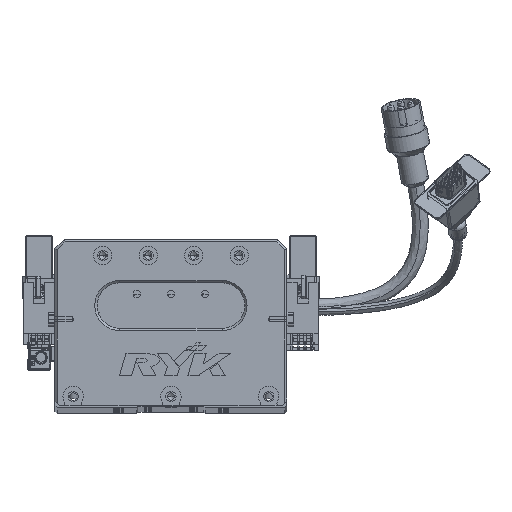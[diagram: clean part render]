
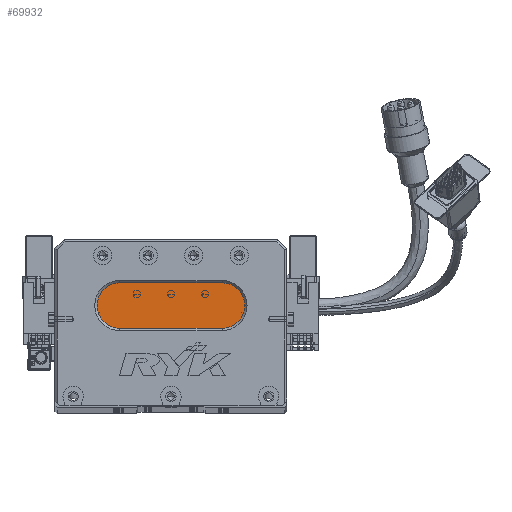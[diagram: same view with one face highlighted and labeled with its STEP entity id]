
A CAD part, top view. The second image highlights one B-rep face of the part: STEP entity #69932.
In plain terms, the highlighted planar face has unit normal (0, 0, 1) as drawn and (0, 0, -1) by its records, which use the part's own axes.
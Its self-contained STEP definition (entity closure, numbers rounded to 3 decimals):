
#578 = VERTEX_POINT ( 'NONE', #909 ) ;
#909 = CARTESIAN_POINT ( 'NONE',  ( 28.5, 34., 13. ) ) ;
#1079 = CARTESIAN_POINT ( 'NONE',  ( 73.5, 54., 13. ) ) ;
#2550 = CIRCLE ( 'NONE', #65494, 10. ) ;
#4486 = CARTESIAN_POINT ( 'NONE',  ( 73.5, 54., 13. ) ) ;
#7367 = CARTESIAN_POINT ( 'NONE',  ( 28.5, 54., 13. ) ) ;
#10949 = CARTESIAN_POINT ( 'NONE',  ( 73.5, 44., 13. ) ) ;
#13736 = EDGE_CURVE ( 'NONE', #48688, #40204, #22959, .T. ) ;
#16192 = VERTEX_POINT ( 'NONE', #66918 ) ;
#17509 = CARTESIAN_POINT ( 'NONE',  ( 28.5, 44., 13. ) ) ;
#17706 = DIRECTION ( 'NONE',  ( 0., 0., -1. ) ) ;
#22327 = DIRECTION ( 'NONE',  ( 0., 0., -1. ) ) ;
#22959 = LINE ( 'NONE', #1079, #73564 ) ;
#23546 = CARTESIAN_POINT ( 'NONE',  ( 73.5, 44., 13. ) ) ;
#33499 = AXIS2_PLACEMENT_3D ( 'NONE', #23546, #17706, #70014 ) ;
#34763 = FACE_OUTER_BOUND ( 'NONE', #42475, .T. ) ;
#34994 = DIRECTION ( 'NONE',  ( 0., 0., -1. ) ) ;
#35697 = PLANE ( 'NONE',  #33499 ) ;
#38817 = AXIS2_PLACEMENT_3D ( 'NONE', #53848, #70509, #54094 ) ;
#40204 = VERTEX_POINT ( 'NONE', #4486 ) ;
#41205 = DIRECTION ( 'NONE',  ( -1., 0., 0. ) ) ;
#42475 = EDGE_LOOP ( 'NONE', ( #67655, #66916, #44395, #64276, #74736 ) ) ;
#42479 = CIRCLE ( 'NONE', #63262, 10. ) ;
#44395 = ORIENTED_EDGE ( 'NONE', *, *, #65002, .T. ) ;
#46241 = LINE ( 'NONE', #47283, #64364 ) ;
#46629 = DIRECTION ( 'NONE',  ( -1., 0., 0. ) ) ;
#46640 = VERTEX_POINT ( 'NONE', #54731 ) ;
#47283 = CARTESIAN_POINT ( 'NONE',  ( 73.5, 34., 13. ) ) ;
#48688 = VERTEX_POINT ( 'NONE', #7367 ) ;
#52530 = EDGE_CURVE ( 'NONE', #40204, #16192, #2550, .T. ) ;
#53848 = CARTESIAN_POINT ( 'NONE',  ( 28.5, 44., 13. ) ) ;
#54094 = DIRECTION ( 'NONE',  ( -1., 0., 0. ) ) ;
#54731 = CARTESIAN_POINT ( 'NONE',  ( 18.5, 44., 13. ) ) ;
#63262 = AXIS2_PLACEMENT_3D ( 'NONE', #17509, #34994, #46629 ) ;
#63867 = EDGE_CURVE ( 'NONE', #16192, #578, #46241, .T. ) ;
#64276 = ORIENTED_EDGE ( 'NONE', *, *, #70021, .T. ) ;
#64364 = VECTOR ( 'NONE', #41205, 1000. ) ;
#65002 = EDGE_CURVE ( 'NONE', #578, #46640, #42479, .T. ) ;
#65494 = AXIS2_PLACEMENT_3D ( 'NONE', #10949, #22327, #74863 ) ;
#66916 = ORIENTED_EDGE ( 'NONE', *, *, #63867, .T. ) ;
#66918 = CARTESIAN_POINT ( 'NONE',  ( 73.5, 34., 13. ) ) ;
#67281 = CIRCLE ( 'NONE', #38817, 10. ) ;
#67655 = ORIENTED_EDGE ( 'NONE', *, *, #52530, .T. ) ;
#69932 = ADVANCED_FACE ( 'NONE', ( #34763 ), #35697, .T. ) ;
#70014 = DIRECTION ( 'NONE',  ( -1., 0., 0. ) ) ;
#70021 = EDGE_CURVE ( 'NONE', #46640, #48688, #67281, .T. ) ;
#70509 = DIRECTION ( 'NONE',  ( 0., 0., -1. ) ) ;
#73564 = VECTOR ( 'NONE', #74044, 1000. ) ;
#74044 = DIRECTION ( 'NONE',  ( 1., 0., 0. ) ) ;
#74736 = ORIENTED_EDGE ( 'NONE', *, *, #13736, .T. ) ;
#74863 = DIRECTION ( 'NONE',  ( -1., 0., 0. ) ) ;
